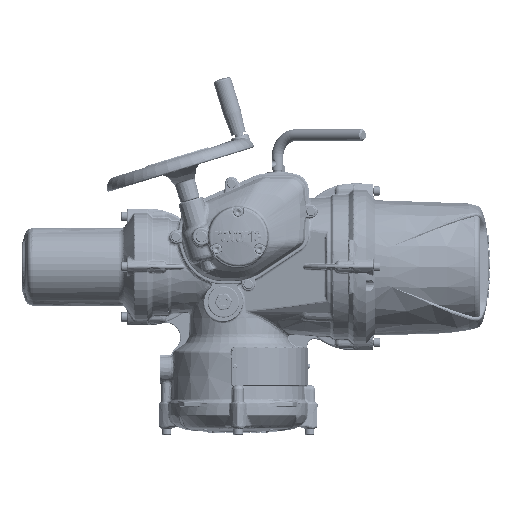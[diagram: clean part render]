
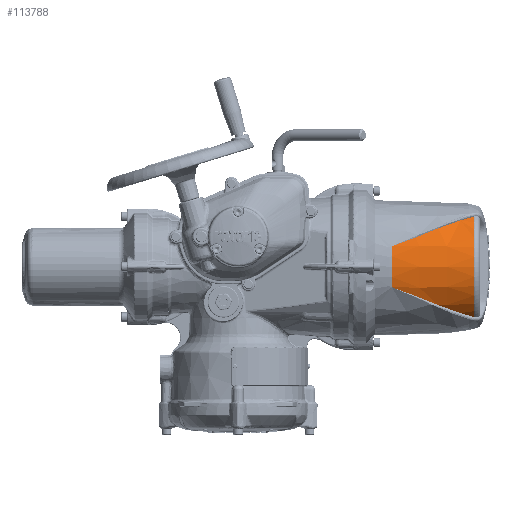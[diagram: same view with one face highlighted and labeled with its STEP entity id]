
A CAD part, top view. The second image highlights one B-rep face of the part: STEP entity #113788.
In plain terms, the highlighted conical face has half-angle 4.254 degrees and reference radius 90.612 mm.
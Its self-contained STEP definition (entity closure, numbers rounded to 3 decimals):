
#2939=CONICAL_SURFACE('',#120429,90.612,0.074);
#13121=B_SPLINE_CURVE_WITH_KNOTS('',3,(#224739,#224740,#224741,#224742,
#224743,#224744,#224745),.UNSPECIFIED.,.F.,.F.,(4,1,1,1,4),(0.,0.026,
0.053,0.079,0.106),.UNSPECIFIED.);
#13122=B_SPLINE_CURVE_WITH_KNOTS('',3,(#224747,#224748,#224749,#224750,
#224751,#224752,#224753),.UNSPECIFIED.,.F.,.F.,(4,1,1,1,4),(0.,0.25,0.5,
0.75,1.),.QUASI_UNIFORM_KNOTS.);
#13123=B_SPLINE_CURVE_WITH_KNOTS('',3,(#224755,#224756,#224757,#224758,
#224759,#224760,#224761),.UNSPECIFIED.,.F.,.F.,(4,1,1,1,4),(0.,0.25,0.5,
0.75,1.),.QUASI_UNIFORM_KNOTS.);
#13124=B_SPLINE_CURVE_WITH_KNOTS('',3,(#224765,#224766,#224767,#224768,
#224769,#224770,#224771),.UNSPECIFIED.,.F.,.F.,(4,1,1,1,4),(0.,0.25,0.5,
0.75,1.),.QUASI_UNIFORM_KNOTS.);
#13125=B_SPLINE_CURVE_WITH_KNOTS('',3,(#224773,#224774,#224775,#224776,
#224777,#224778,#224779),.UNSPECIFIED.,.F.,.F.,(4,1,1,1,4),(0.,0.25,0.5,
0.75,1.),.QUASI_UNIFORM_KNOTS.);
#13126=B_SPLINE_CURVE_WITH_KNOTS('',3,(#224781,#224782,#224783,#224784,
#224785,#224786,#224787),.UNSPECIFIED.,.F.,.F.,(4,1,1,1,4),(0.,0.026,
0.053,0.079,0.106),.UNSPECIFIED.);
#28961=ORIENTED_EDGE('',*,*,#46797,.T.);
#28962=ORIENTED_EDGE('',*,*,#46798,.T.);
#28963=ORIENTED_EDGE('',*,*,#46799,.T.);
#28964=ORIENTED_EDGE('',*,*,#46800,.T.);
#28965=ORIENTED_EDGE('',*,*,#46801,.T.);
#28966=ORIENTED_EDGE('',*,*,#46802,.T.);
#28967=ORIENTED_EDGE('',*,*,#46803,.T.);
#28968=ORIENTED_EDGE('',*,*,#46804,.T.);
#46797=EDGE_CURVE('',#56327,#56328,#62359,.F.);
#46798=EDGE_CURVE('',#56328,#56329,#13121,.T.);
#46799=EDGE_CURVE('',#56329,#56330,#13122,.T.);
#46800=EDGE_CURVE('',#56330,#56331,#13123,.T.);
#46801=EDGE_CURVE('',#56331,#56332,#62360,.F.);
#46802=EDGE_CURVE('',#56332,#56333,#13124,.T.);
#46803=EDGE_CURVE('',#56333,#56334,#13125,.T.);
#46804=EDGE_CURVE('',#56334,#56327,#13126,.T.);
#56327=VERTEX_POINT('',#224737);
#56328=VERTEX_POINT('',#224738);
#56329=VERTEX_POINT('',#224746);
#56330=VERTEX_POINT('',#224754);
#56331=VERTEX_POINT('',#224762);
#56332=VERTEX_POINT('',#224764);
#56333=VERTEX_POINT('',#224772);
#56334=VERTEX_POINT('',#224780);
#62359=CIRCLE('',#120430,90.463);
#62360=CIRCLE('',#120431,82.051);
#67213=EDGE_LOOP('',(#28961,#28962,#28963,#28964,#28965,#28966,#28967,#28968));
#73066=FACE_BOUND('',#67213,.T.);
#113788=ADVANCED_FACE('',(#73066),#2939,.T.);
#120429=AXIS2_PLACEMENT_3D('',#224735,#133543,#133544);
#120430=AXIS2_PLACEMENT_3D('',#224736,#133545,#133546);
#120431=AXIS2_PLACEMENT_3D('',#224763,#133547,#133548);
#133543=DIRECTION('',(0.,0.,-1.));
#133544=DIRECTION('',(-1.,0.,0.));
#133545=DIRECTION('',(0.,0.,-1.));
#133546=DIRECTION('',(-1.,0.,0.));
#133547=DIRECTION('',(0.,0.,1.));
#133548=DIRECTION('',(1.,0.,0.));
#224735=CARTESIAN_POINT('',(0.,0.,45.));
#224736=CARTESIAN_POINT('',(0.,0.,47.011));
#224737=CARTESIAN_POINT('',(28.102,86.03,46.997));
#224738=CARTESIAN_POINT('',(-28.102,86.03,46.997));
#224739=CARTESIAN_POINT('',(-28.053,86.003,47.011));
#224740=CARTESIAN_POINT('',(-30.71,84.489,55.283));
#224741=CARTESIAN_POINT('',(-36.798,80.913,71.448));
#224742=CARTESIAN_POINT('',(-46.529,73.736,94.977));
#224743=CARTESIAN_POINT('',(-55.736,64.846,117.994));
#224744=CARTESIAN_POINT('',(-61.111,57.872,133.224));
#224745=CARTESIAN_POINT('',(-63.54,54.148,140.843));
#224746=CARTESIAN_POINT('',(-63.54,54.148,140.843));
#224747=CARTESIAN_POINT('',(-63.54,54.148,140.843));
#224748=CARTESIAN_POINT('',(-64.052,53.363,142.449));
#224749=CARTESIAN_POINT('',(-65.052,51.775,145.659));
#224750=CARTESIAN_POINT('',(-66.476,49.335,150.471));
#224751=CARTESIAN_POINT('',(-67.823,46.839,155.282));
#224752=CARTESIAN_POINT('',(-68.668,45.139,158.489));
#224753=CARTESIAN_POINT('',(-69.077,44.28,160.093));
#224754=CARTESIAN_POINT('',(-68.702,45.058,158.635));
#224755=CARTESIAN_POINT('',(-63.54,54.148,140.843));
#224756=CARTESIAN_POINT('',(-64.052,53.363,142.449));
#224757=CARTESIAN_POINT('',(-65.052,51.775,145.659));
#224758=CARTESIAN_POINT('',(-66.476,49.335,150.471));
#224759=CARTESIAN_POINT('',(-67.823,46.839,155.282));
#224760=CARTESIAN_POINT('',(-68.668,45.139,158.489));
#224761=CARTESIAN_POINT('',(-69.077,44.28,160.093));
#224762=CARTESIAN_POINT('',(-69.077,44.28,160.093));
#224763=CARTESIAN_POINT('',(0.,0.,160.093));
#224764=CARTESIAN_POINT('',(69.077,44.28,160.093));
#224765=CARTESIAN_POINT('',(69.077,44.28,160.093));
#224766=CARTESIAN_POINT('',(68.669,45.138,158.491));
#224767=CARTESIAN_POINT('',(67.824,46.837,155.285));
#224768=CARTESIAN_POINT('',(66.477,49.333,150.475));
#224769=CARTESIAN_POINT('',(65.053,51.773,145.662));
#224770=CARTESIAN_POINT('',(64.052,53.363,142.45));
#224771=CARTESIAN_POINT('',(63.54,54.148,140.843));
#224772=CARTESIAN_POINT('',(68.702,45.058,158.635));
#224773=CARTESIAN_POINT('',(69.077,44.28,160.093));
#224774=CARTESIAN_POINT('',(68.669,45.138,158.491));
#224775=CARTESIAN_POINT('',(67.824,46.837,155.285));
#224776=CARTESIAN_POINT('',(66.477,49.333,150.475));
#224777=CARTESIAN_POINT('',(65.053,51.773,145.662));
#224778=CARTESIAN_POINT('',(64.052,53.363,142.45));
#224779=CARTESIAN_POINT('',(63.54,54.148,140.843));
#224780=CARTESIAN_POINT('',(63.54,54.148,140.843));
#224781=CARTESIAN_POINT('',(63.54,54.148,140.843));
#224782=CARTESIAN_POINT('',(61.115,57.866,133.236));
#224783=CARTESIAN_POINT('',(55.736,64.85,117.989));
#224784=CARTESIAN_POINT('',(46.491,73.769,94.884));
#224785=CARTESIAN_POINT('',(36.775,80.926,71.389));
#224786=CARTESIAN_POINT('',(30.709,84.49,55.28));
#224787=CARTESIAN_POINT('',(28.053,86.003,47.011));
